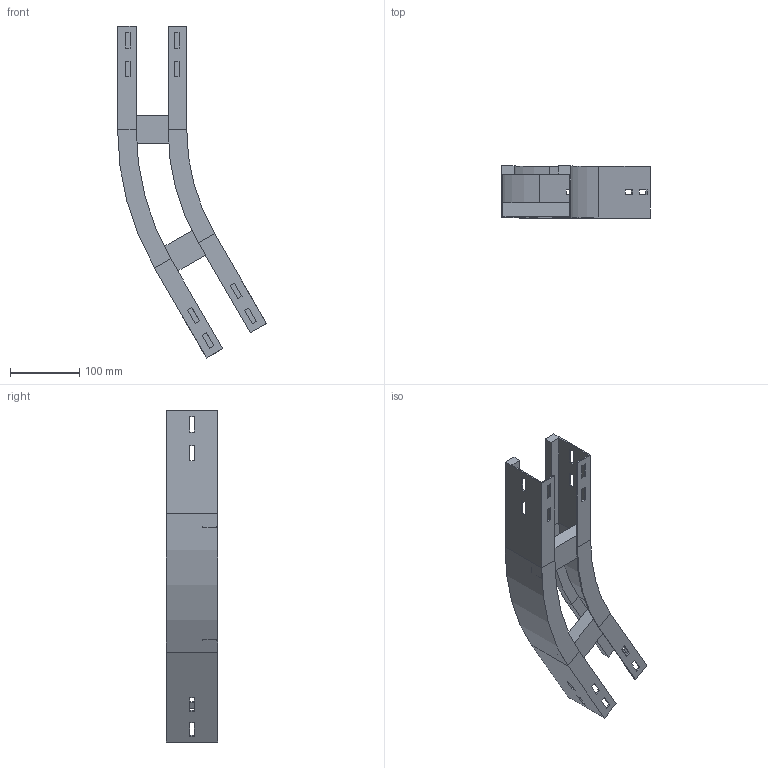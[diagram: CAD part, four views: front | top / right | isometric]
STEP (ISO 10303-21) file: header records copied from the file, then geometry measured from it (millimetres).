
FILE_DESCRIPTION (( 'STEP AP214' ), '1' );
FILE_NAME ('A2_12B3C100.step', '2025-02-21T15:10:28', ( '' ), ( '' ), 'SwSTEP 2.0', 'SolidWorks 2023', '' );
FILE_SCHEMA (( 'AUTOMOTIVE_DESIGN' ));
Length unit declared in the file: millimetre
Products named in the file (4): A2_LONGH.INTERNO 30°_H75_R300; A2_12B3C100; TRAVERSINO_100; A2_LONGH.ESTERNO 30°_H75_R300+100
Assembly tree (4 placements, depth 2):
  A2_12B3C100
    A2_LONGH.INTERNO 30°_H75_R300
    A2_LONGH.ESTERNO 30°_H75_R300+100
    TRAVERSINO_100  x2
Bounding box: 215.19 x 75 x 479.9 mm (x, y, z)
Volume: 529467.5 mm3; surface area: 253066.5 mm2
Topology: 4 solids, 4 shells, 128 faces, 328 edges, 208 vertices
Faces by surface type: plane 120, cylinder 8
Entity records: 3813 total; most frequent: CARTESIAN_POINT 645, ORIENTED_EDGE 632, DIRECTION 590, EDGE_CURVE 316, VECTOR 300, LINE 300, VERTEX_POINT 200, EDGE_LOOP 154
